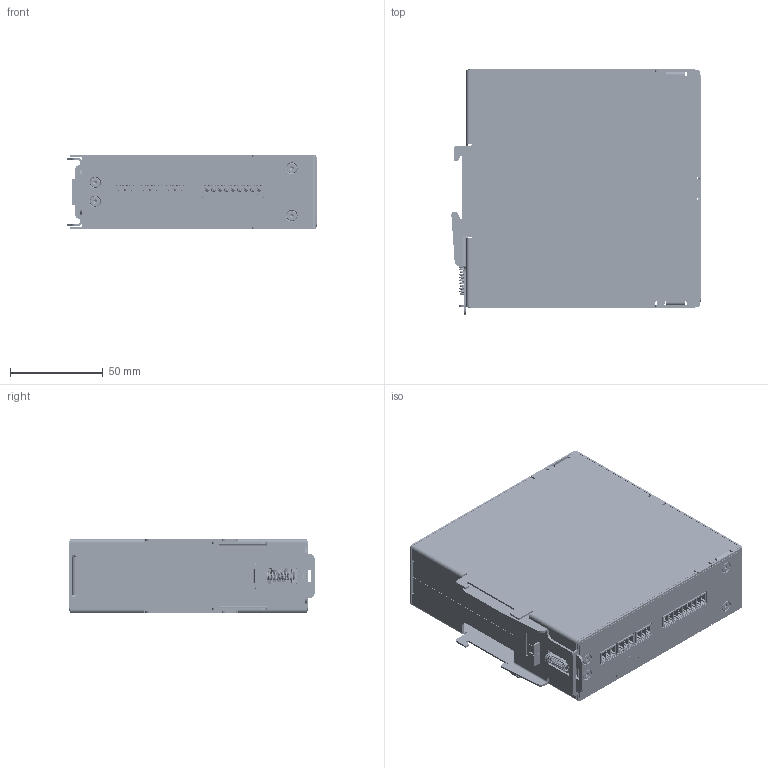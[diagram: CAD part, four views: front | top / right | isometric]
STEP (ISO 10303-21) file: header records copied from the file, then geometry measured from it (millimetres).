
FILE_DESCRIPTION (( 'STEP AP214' ), '1' );
FILE_NAME ('991-24580-00 IO Dumb Solid No Terminals.STEP', '2023-02-20T22:02:52', ( '' ), ( '' ), 'SwSTEP 2.0', 'SolidWorks 2019', '' );
FILE_SCHEMA (( 'AUTOMOTIVE_DESIGN' ));
Length unit declared in the file: millimetre
Products named in the file (1): 991-24580-00 IO Dumb Solid No Terminals
Bounding box: 134.42 x 132.35 x 39.6 mm (x, y, z)
Surface area: 178332.3 mm2 (no closed solid volume)
Topology: 0 solids, 88 shells, 8325 faces, 21697 edges, 14115 vertices
Faces by surface type: plane 5213, cylinder 1722, bspline 1037, cone 205, torus 116, sphere 32
Entity records: 419625 total; most frequent: CARTESIAN_POINT 136750, ORIENTED_EDGE 43198, DIRECTION 32310, EDGE_CURVE 21649, VERTEX_POINT 14115, VECTOR 12042, LINE 12042, AXIS2_PLACEMENT_3D 10134
